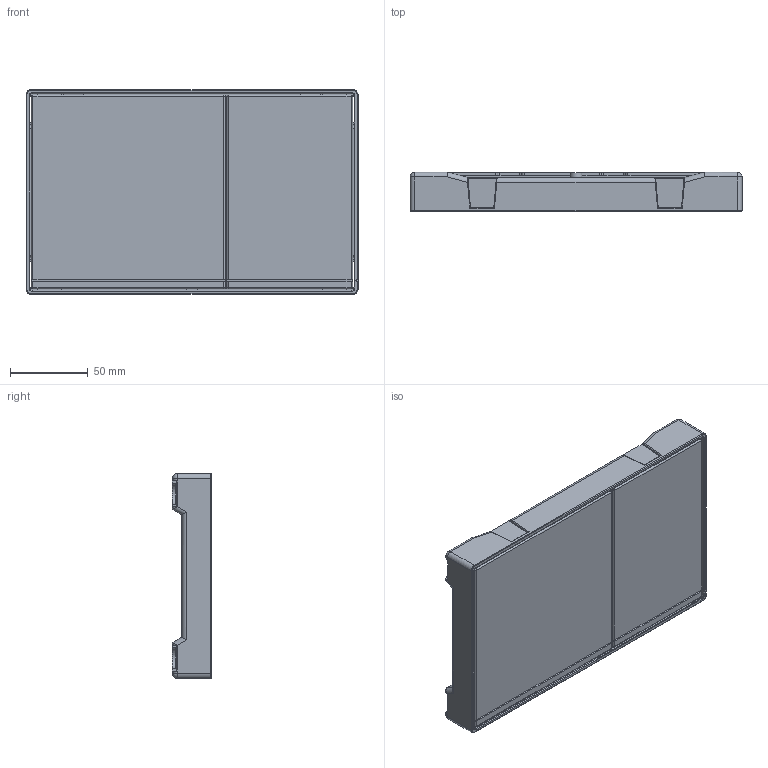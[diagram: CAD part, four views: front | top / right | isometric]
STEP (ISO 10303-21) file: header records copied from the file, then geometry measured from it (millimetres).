
FILE_DESCRIPTION(/* description */ (''),/* implementation_level */ '2;1');
FILE_NAME(/* name */ 'C:\Planerdaten\Export PLA\115.640.GH.1\stp\115640.stp',/* time_stamp */ '2021-10-08T09:30:46+02:00',/* author */ ('JANAN'),/* organization */ (''),/* preprocessor_version */ 'ST-DEVELOPER v16.13',/* originating_system */ 'Autodesk Inventor 2018',/* authorisation */ '');
FILE_SCHEMA (('AUTOMOTIVE_DESIGN { 1 0 10303 214 3 1 1 }'));
Length unit declared in the file: millimetre
Products named in the file (1): tmp209F.tmp
Bounding box: 214 x 25.2 x 131.9 mm (x, y, z)
Volume: 117604 mm3; surface area: 96732.2 mm2
Topology: 5 solids, 5 shells, 332 faces, 914 edges, 582 vertices
Faces by surface type: plane 192, cylinder 112, sphere 12, bspline 8, torus 8
Entity records: 11032 total; most frequent: CARTESIAN_POINT 2057, ORIENTED_EDGE 1828, DIRECTION 1784, EDGE_CURVE 914, LINE 678, VECTOR 678, VERTEX_POINT 582, AXIS2_PLACEMENT_3D 553
